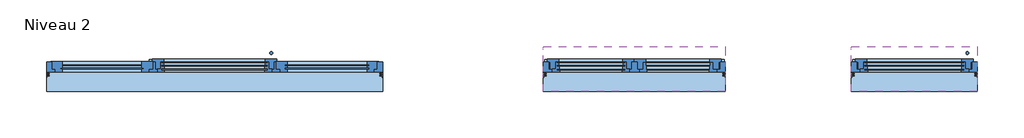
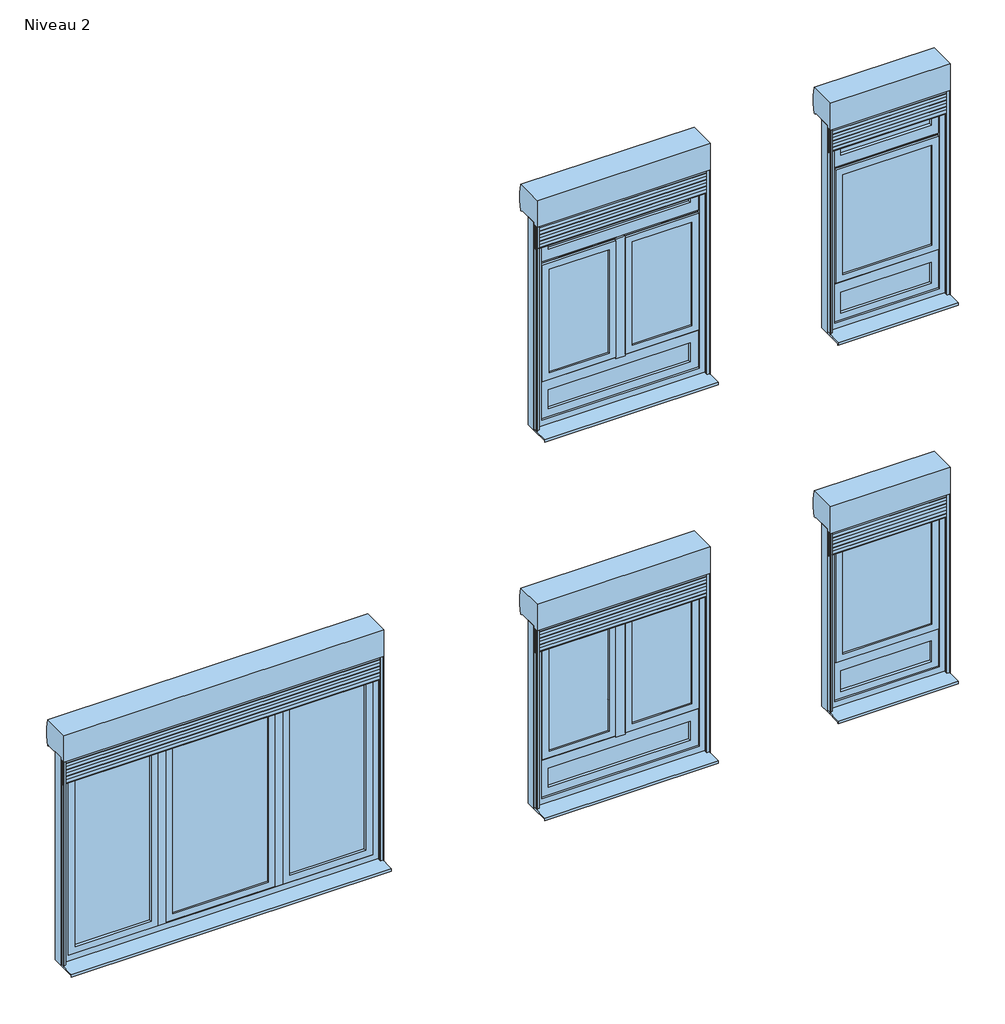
# One storey: 5 windows.
"""IFC4 building model written with IfcOpenShell, lengths in millimetres."""

from ifc_helpers import new_model, si_unit, origin, place, context, project, spatial, transform, mapped, element, save
from components import window_b5c8aea6, window_a40efb40, window_cf888731, window_1ac53e70, window_0c8a83d3

model = new_model("IFC4")

# Units and contexts
model_context = context("Model", 3, world=origin())
ifc_project = project(units=[si_unit("LENGTHUNIT", "METRE", prefix="MILLI")], contexts=[model_context])

# Site, building, storey
site = spatial("IfcSite", under=ifc_project)
building = spatial("IfcBuilding", under=site)
storey = spatial("IfcBuildingStorey", under=building, Name="Niveau 2", Elevation=6000.0)

# Windows
placement = place(None, origin())
window_shape = window_b5c8aea6(model_context)
element("IfcWindow", 1, ObjectType="6. OF1 + Fixe en B ENR PVC-ALU : 130X165 (LXH) cm", at=placement, inside=storey, context=model_context, shape_type="MappedRepresentation", body=[
    mapped(window_shape, transform((-4169.1701575, 165.9072991, 5910.0), x_axis=(-1.0, 0.0, 0.0), y_axis=(0.0, -1.0, 0.0), z_axis=(0.0, 0.0, 1.0))),
])
window_2_shape = window_a40efb40(model_context)
element("IfcWindow", 2, ObjectType="7. OF2 ENR + Fixe en B PVC-ALU : 130X165 (LXH) cm", at=placement, inside=storey, context=model_context, shape_type="MappedRepresentation", body=[
    mapped(window_2_shape, transform((-6169.1701575, 165.9072991, 5910.0), x_axis=(-1.0, 0.0, 0.0), y_axis=(0.0, -1.0, 0.0), z_axis=(0.0, 0.0, 1.0))),
])
window_3_shape = window_cf888731(model_context)
element("IfcWindow", 3, ObjectType="8. OF1 + 2 Fixes à G et à D PVC-ALU : 240X165 (LXH) cm", at=placement, inside=storey, context=model_context, shape_type="MappedRepresentation", body=[
    mapped(window_3_shape, transform((-9169.1701575, 165.9072991, 5910.0), x_axis=(-1.0, 0.0, 0.0), y_axis=(0.0, -1.0, 0.0), z_axis=(0.0, 0.0, 1.0))),
])
window_4_shape = window_1ac53e70(model_context)
element("IfcWindow", 4, ObjectType="10. OF1 + 2 Fixes en B et en H ENR PVC-ALU : 90X165 (LXH) cm", at=placement, inside=storey, context=model_context, shape_type="MappedRepresentation", body=[
    mapped(window_4_shape, transform((-4169.1701575, 165.9072991, 9210.0), x_axis=(-1.0, 0.0, 0.0), y_axis=(0.0, -1.0, 0.0), z_axis=(0.0, 0.0, 1.0))),
])
window_5_shape = window_0c8a83d3(model_context)
element("IfcWindow", 5, ObjectType="11. OF2 ENR + 2 Fixes en B et en H PVC-ALU : 130X165 (LXH) cm", at=placement, inside=storey, context=model_context, shape_type="MappedRepresentation", body=[
    mapped(window_5_shape, transform((-6169.1701575, 165.9072991, 8910.0), x_axis=(-1.0, 0.0, 0.0), y_axis=(0.0, -1.0, 0.0), z_axis=(0.0, 0.0, 1.0))),
])

save(model, "model.ifc")
